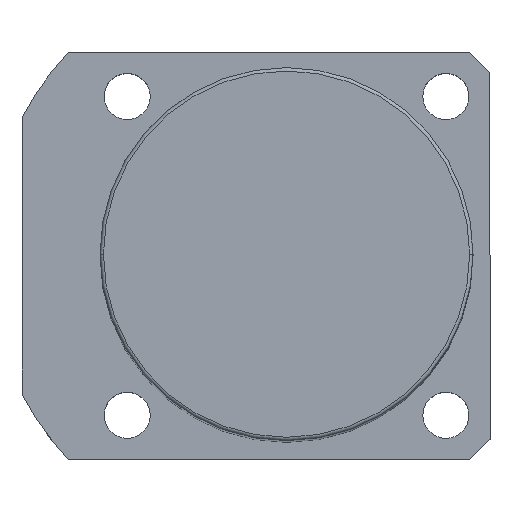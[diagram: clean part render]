
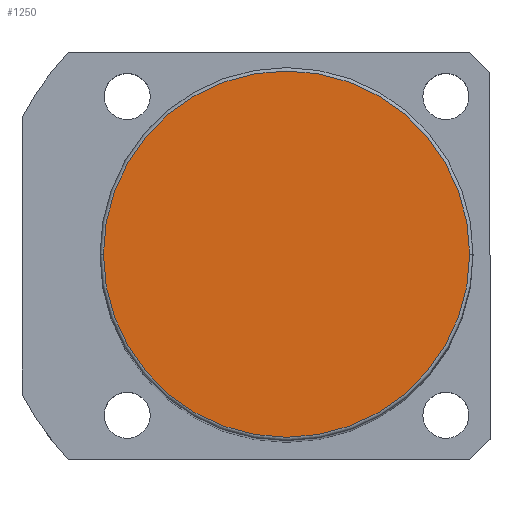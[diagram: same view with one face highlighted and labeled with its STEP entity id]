
A CAD part, top view. The second image highlights one B-rep face of the part: STEP entity #1250.
In plain terms, the highlighted planar face has unit normal (0, 0, 1).
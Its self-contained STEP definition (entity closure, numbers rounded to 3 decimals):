
#4 = EDGE_CURVE ( 'NONE', #877, #1536, #2001, .T. ) ;
#6 = CARTESIAN_POINT ( 'NONE',  ( 0., 0., 156. ) ) ;
#174 = DIRECTION ( 'NONE',  ( 0., 0., 1. ) ) ;
#295 = CARTESIAN_POINT ( 'NONE',  ( 0., 0., 156. ) ) ;
#347 = DIRECTION ( 'NONE',  ( 1., 0., 0. ) ) ;
#607 = EDGE_CURVE ( 'NONE', #1536, #877, #1593, .T. ) ;
#615 = ORIENTED_EDGE ( 'NONE', *, *, #607, .T. ) ;
#653 = DIRECTION ( 'NONE',  ( 0., 0., 1. ) ) ;
#737 = PLANE ( 'NONE',  #1924 ) ;
#796 = CARTESIAN_POINT ( 'NONE',  ( -27., 0., 156. ) ) ;
#877 = VERTEX_POINT ( 'NONE', #1896 ) ;
#909 = DIRECTION ( 'NONE',  ( 0., 0., 1. ) ) ;
#922 = FACE_OUTER_BOUND ( 'NONE', #1590, .T. ) ;
#965 = AXIS2_PLACEMENT_3D ( 'NONE', #6, #174, #347 ) ;
#1053 = DIRECTION ( 'NONE',  ( 1., 0., 0. ) ) ;
#1056 = AXIS2_PLACEMENT_3D ( 'NONE', #295, #653, #1676 ) ;
#1250 = ADVANCED_FACE ( 'NONE', ( #922 ), #737, .T. ) ;
#1296 = ORIENTED_EDGE ( 'NONE', *, *, #4, .T. ) ;
#1536 = VERTEX_POINT ( 'NONE', #796 ) ;
#1590 = EDGE_LOOP ( 'NONE', ( #1296, #615 ) ) ;
#1593 = CIRCLE ( 'NONE', #1056, 27. ) ;
#1676 = DIRECTION ( 'NONE',  ( 1., 0., 0. ) ) ;
#1896 = CARTESIAN_POINT ( 'NONE',  ( 27., 0., 156. ) ) ;
#1920 = CARTESIAN_POINT ( 'NONE',  ( 0., 0., 156. ) ) ;
#1924 = AXIS2_PLACEMENT_3D ( 'NONE', #1920, #909, #1053 ) ;
#2001 = CIRCLE ( 'NONE', #965, 27. ) ;
